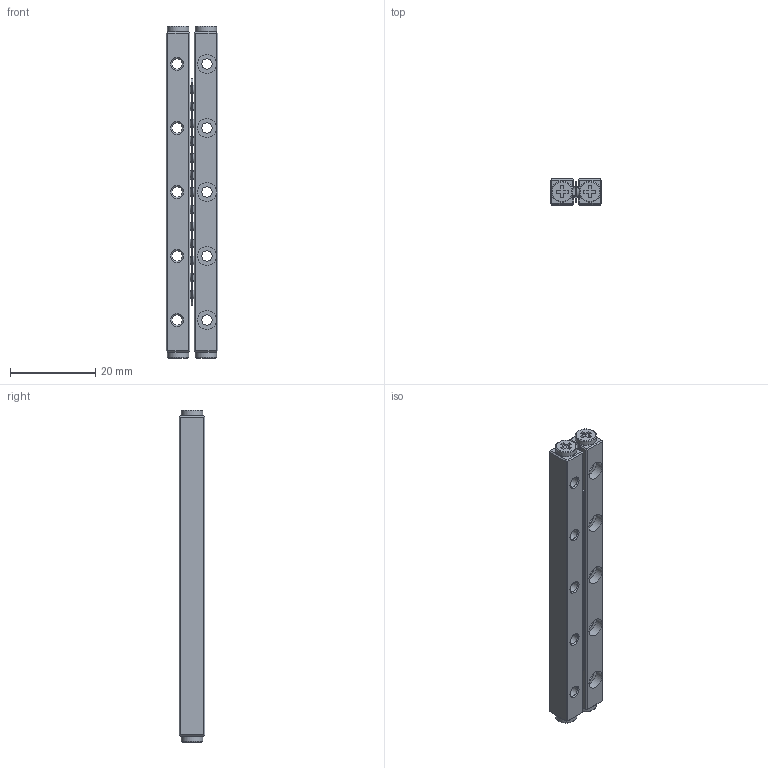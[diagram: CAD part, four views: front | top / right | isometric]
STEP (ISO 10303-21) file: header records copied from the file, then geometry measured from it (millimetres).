
FILE_DESCRIPTION(/* description */ ('Unknown'),/* implementation_level */ '2;1');
FILE_NAME(/* name */ 'VR2-75x13Z',/* time_stamp */ '2025-06-12T09:12:44+08:00',/* author */ ('Unknown'),/* organization */ ('Unknown'),/* preprocessor_version */ 'ST-DEVELOPER v18.102',/* originating_system */ 'Solid Edge',/* authorisation */ 'Unknown');
FILE_SCHEMA (('AUTOMOTIVE_DESIGN {1 0 10303 214 3 1 1}'));
Length unit declared in the file: millimetre
Products named in the file (3): VR2-75x13Z; VR2-75x13Z_rail; VR2-75x13Z_roller
Assembly tree (3 placements, depth 2):
  VR2-75x13Z
    VR2-75x13Z_rail  x2
    VR2-75x13Z_roller
Bounding box: 12 x 6 x 77.8 mm (x, y, z)
Volume: 4507.5 mm3; surface area: 4989.3 mm2
Topology: 3 solids, 3 shells, 347 faces, 1004 edges, 654 vertices
Faces by surface type: plane 236, cylinder 93, cone 10, torus 8
Full cylindrical faces by diameter (mm): 2 x13, 2.459 x10, 4.4 x10, 5 x4
Entity records: 9161 total; most frequent: CARTESIAN_POINT 1468, DIRECTION 1467, ORIENTED_EDGE 1424, EDGE_CURVE 712, LINE 491, VECTOR 491, VERTEX_POINT 489, AXIS2_PLACEMENT_3D 488
